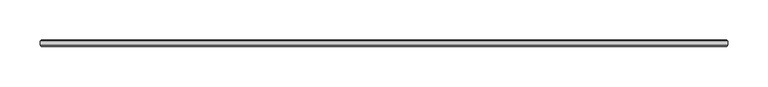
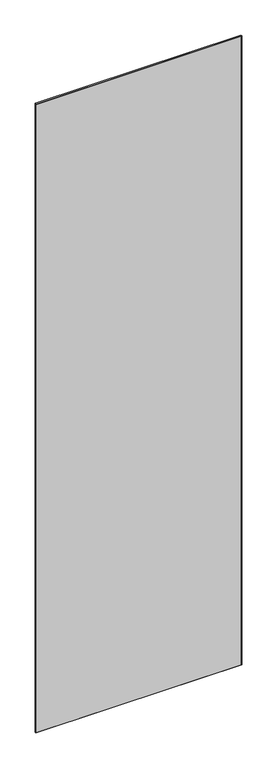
"""IFC4 building model written with IfcOpenShell, lengths in millimetres: plate geometry, 1-AMG-1-Панель одинарный витраж 8, 10 : Смещение 32 Толщина 8mm."""

from ifc_helpers import new_model, si_unit, origin, place, context, project, spatial, faceted_brep, source, transform, mapped, element, save


def plate_558eb1f9(model_context):
    return source(origin(), model_context, "Body", "Brep", [
        faceted_brep([(428.0, 29.5038347, 2751.0), (428.0, 34.4961653, 2751.0), (-428.0, 34.4961653, 2751.0), (-428.0, 29.5038347, 2751.0), (428.0, 34.4961653, -7.0), (428.0, 29.5038347, -7.0), (-428.0, 29.5038347, -7.0), (-428.0, 34.4961653, -7.0), (-426.4961653, 36.0, 2749.4961653), (426.4961653, 36.0, 2749.4961653), (426.4961653, 36.0, -5.5039422), (-426.4961653, 36.0, -5.5039422), (426.4961653, 28.0, 2749.4961653), (-426.4961653, 28.0, 2749.4961653), (-426.4961653, 28.0, -5.4961653), (426.4961653, 28.0, -5.4961653)], [[[0, 1, 2, 3]], [[4, 5, 6, 7]], [[8, 9, 10, 11]], [[3, 2, 7, 6]], [[12, 13, 14, 15]], [[1, 0, 5, 4]], [[1, 4, 10, 9]], [[5, 0, 12, 15]], [[7, 2, 8, 11]], [[3, 6, 14, 13]], [[0, 3, 13, 12]], [[2, 1, 9, 8]], [[6, 5, 15, 14]], [[4, 7, 11, 10]]]),
    ])


if __name__ == "__main__":
    model = new_model("IFC4")
    model_context = context("Model", 3, world=origin())
    ifc_project = project(units=[si_unit("LENGTHUNIT", "METRE", prefix="MILLI")], contexts=[model_context])
    site = spatial("IfcSite", under=ifc_project)
    building = spatial("IfcBuilding", under=site)
    placement = place(None, origin())
    plate_shape = plate_558eb1f9(model_context)
    element("IfcPlate", 1, ObjectType="1-AMG-1-Панель одинарный витраж 8, 10 : Смещение 32 Толщина 8mm", at=placement, inside=building, context=model_context, shape_type="MappedRepresentation", body=[
        mapped(plate_shape, transform((0.0, 0.0, 0.0), x_axis=(1.0, 0.0, 0.0), y_axis=(0.0, 1.0, 0.0), z_axis=(0.0, 0.0, 1.0))),
    ])
    save(model, "model.ifc")
